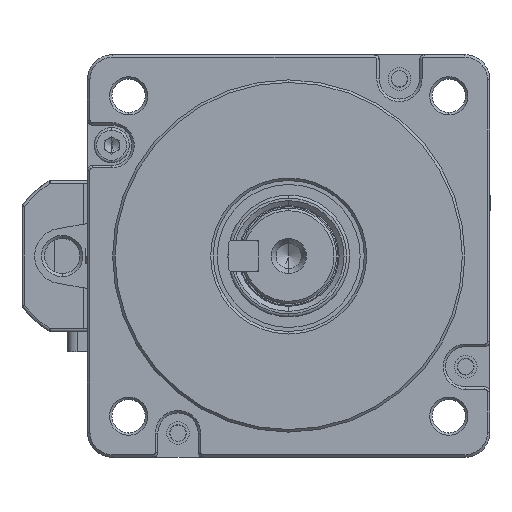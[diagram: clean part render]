
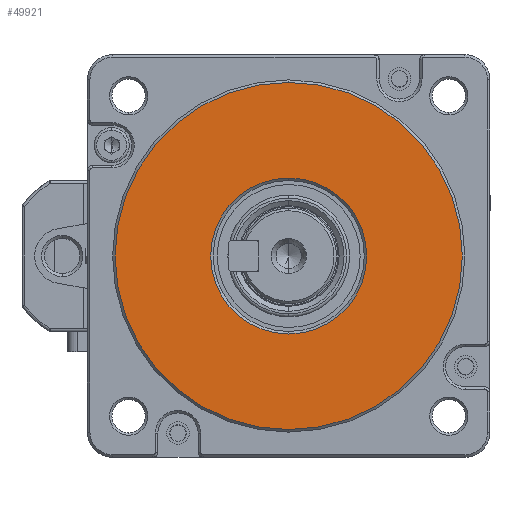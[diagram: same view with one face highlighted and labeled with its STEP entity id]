
A CAD part, left-side view. The second image highlights one B-rep face of the part: STEP entity #49921.
In plain terms, the highlighted planar face has unit normal (-1, 0, 0).
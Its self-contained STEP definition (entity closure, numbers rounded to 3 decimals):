
#1611 = ORIENTED_EDGE ( 'NONE', *, *, #39601, .T. ) ;
#1668 = AXIS2_PLACEMENT_3D ( 'NONE', #15256, #44192, #29906 ) ;
#3891 = ORIENTED_EDGE ( 'NONE', *, *, #50050, .T. ) ;
#6276 = DIRECTION ( 'NONE',  ( -1., 0., 0. ) ) ;
#6438 = EDGE_CURVE ( 'NONE', #55709, #31090, #16580, .T. ) ;
#8134 = EDGE_LOOP ( 'NONE', ( #32235, #9393 ) ) ;
#8149 = CARTESIAN_POINT ( 'NONE',  ( 4.324, 2.652, 2.727 ) ) ;
#9393 = ORIENTED_EDGE ( 'NONE', *, *, #13120, .T. ) ;
#11271 = FACE_OUTER_BOUND ( 'NONE', #8134, .T. ) ;
#13120 = EDGE_CURVE ( 'NONE', #31090, #55709, #42702, .T. ) ;
#14343 = FACE_BOUND ( 'NONE', #58890, .T. ) ;
#15256 = CARTESIAN_POINT ( 'NONE',  ( 4.324, 2.652, 2.727 ) ) ;
#16580 = CIRCLE ( 'NONE', #1668, 34.5 ) ;
#19141 = VERTEX_POINT ( 'NONE', #27300 ) ;
#19575 = CARTESIAN_POINT ( 'NONE',  ( 4.324, 2.652, 37.227 ) ) ;
#20299 = DIRECTION ( 'NONE',  ( -1., 0., 0. ) ) ;
#20695 = CARTESIAN_POINT ( 'NONE',  ( 4.324, 2.652, 2.727 ) ) ;
#23129 = AXIS2_PLACEMENT_3D ( 'NONE', #35006, #20299, #36056 ) ;
#23487 = CARTESIAN_POINT ( 'NONE',  ( 4.324, 2.652, 18.227 ) ) ;
#26629 = DIRECTION ( 'NONE',  ( 0., 0., 1. ) ) ;
#27300 = CARTESIAN_POINT ( 'NONE',  ( 4.324, 2.652, -12.773 ) ) ;
#28770 = CIRCLE ( 'NONE', #36095, 15.5 ) ;
#29906 = DIRECTION ( 'NONE',  ( 0., 0., 1. ) ) ;
#30272 = DIRECTION ( 'NONE',  ( 0., 0., 1. ) ) ;
#31090 = VERTEX_POINT ( 'NONE', #19575 ) ;
#31354 = DIRECTION ( 'NONE',  ( 1., 0., 0. ) ) ;
#32235 = ORIENTED_EDGE ( 'NONE', *, *, #6438, .T. ) ;
#35006 = CARTESIAN_POINT ( 'NONE',  ( 4.324, 2.652, 2.727 ) ) ;
#36056 = DIRECTION ( 'NONE',  ( 0., 0., 1. ) ) ;
#36095 = AXIS2_PLACEMENT_3D ( 'NONE', #55665, #31354, #60674 ) ;
#39365 = VERTEX_POINT ( 'NONE', #23487 ) ;
#39601 = EDGE_CURVE ( 'NONE', #39365, #19141, #45754, .T. ) ;
#39639 = AXIS2_PLACEMENT_3D ( 'NONE', #8149, #55866, #26629 ) ;
#42702 = CIRCLE ( 'NONE', #23129, 34.5 ) ;
#44192 = DIRECTION ( 'NONE',  ( -1., 0., 0. ) ) ;
#45754 = CIRCLE ( 'NONE', #39639, 15.5 ) ;
#49057 = PLANE ( 'NONE',  #61330 ) ;
#49921 = ADVANCED_FACE ( 'NONE', ( #11271, #14343 ), #49057, .T. ) ;
#50050 = EDGE_CURVE ( 'NONE', #19141, #39365, #28770, .T. ) ;
#55665 = CARTESIAN_POINT ( 'NONE',  ( 4.324, 2.652, 2.727 ) ) ;
#55709 = VERTEX_POINT ( 'NONE', #59093 ) ;
#55866 = DIRECTION ( 'NONE',  ( 1., 0., 0. ) ) ;
#58890 = EDGE_LOOP ( 'NONE', ( #1611, #3891 ) ) ;
#59093 = CARTESIAN_POINT ( 'NONE',  ( 4.324, 2.652, -31.773 ) ) ;
#60674 = DIRECTION ( 'NONE',  ( 0., 0., 1. ) ) ;
#61330 = AXIS2_PLACEMENT_3D ( 'NONE', #20695, #6276, #30272 ) ;
